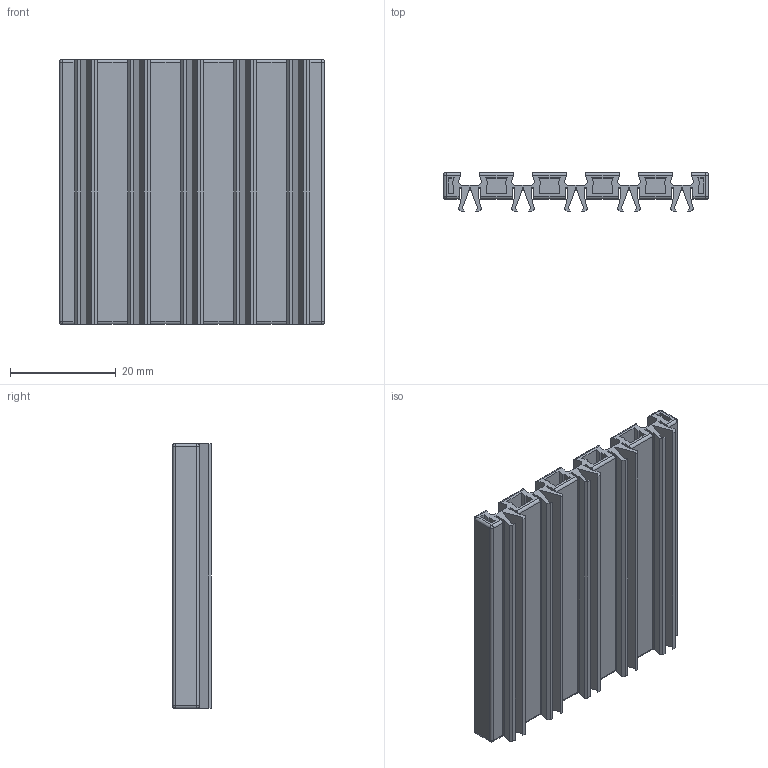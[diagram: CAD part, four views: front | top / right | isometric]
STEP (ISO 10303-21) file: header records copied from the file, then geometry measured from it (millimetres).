
FILE_DESCRIPTION(/* description */ (''),/* implementation_level */ '2;1');
FILE_NAME(/* name */ 'C:/Users/priba/Downloads/Brick5x5x0.5mf.step',/* time_stamp */ '2022-04-03T11:02:01+02:00',/* author */ (''),/* organization */ (''),/* preprocessor_version */ 'ST-DEVELOPER v18.1',/* originating_system */ 'Autodesk Translation Framework v10.13.0.1454',/* authorisation */ '');
FILE_SCHEMA (('AUTOMOTIVE_DESIGN { 1 0 10303 214 3 1 1 }'));
Length unit declared in the file: millimetre
Products named in the file (1): Brick5x5x0.5mf
Bounding box: 50 x 7.31 x 50 mm (x, y, z)
Volume: 7607.9 mm3; surface area: 16056.7 mm2
Topology: 1 solids, 1 shells, 216 faces, 600 edges, 392 vertices
Faces by surface type: plane 176, cylinder 32, sphere 8
Entity records: 6818 total; most frequent: CARTESIAN_POINT 1209, ORIENTED_EDGE 1200, DIRECTION 1098, EDGE_CURVE 600, LINE 536, VECTOR 536, VERTEX_POINT 392, AXIS2_PLACEMENT_3D 281
